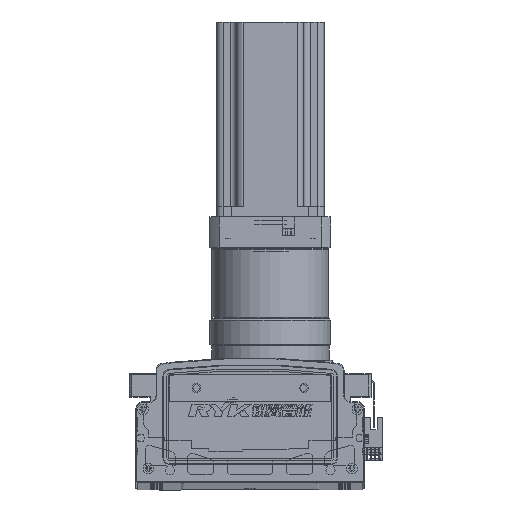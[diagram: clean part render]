
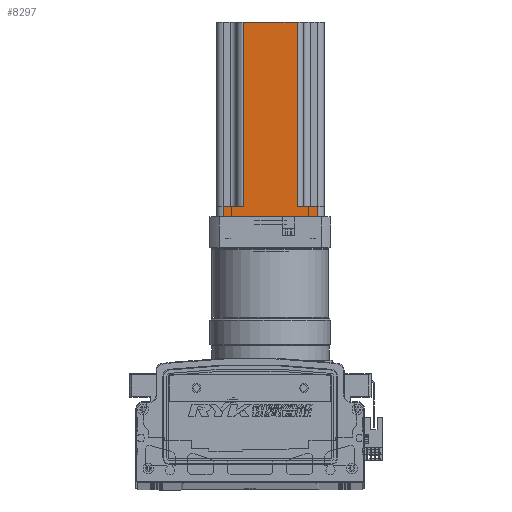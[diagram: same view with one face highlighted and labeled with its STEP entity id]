
A CAD part, top view. The second image highlights one B-rep face of the part: STEP entity #8297.
In plain terms, the highlighted planar face has unit normal (0, 0, 1) as drawn and (0, -1, 0) by its records, which use the part's own axes.
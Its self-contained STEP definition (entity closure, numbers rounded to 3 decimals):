
#8297 = ADVANCED_FACE ( 'NONE', ( #74158 ), #105929, .F. ) ;
#20008 = DIRECTION ( 'NONE',  ( 1., 0., 0. ) ) ;
#20040 = CARTESIAN_POINT ( 'NONE',  ( -87.587, -40.37, 145. ) ) ;
#20059 = CARTESIAN_POINT ( 'NONE',  ( -82.587, -40.37, 145. ) ) ;
#20079 = DIRECTION ( 'NONE',  ( 1., 0., 0. ) ) ;
#20089 = CARTESIAN_POINT ( 'NONE',  ( -87.587, -40.37, 0. ) ) ;
#20096 = CARTESIAN_POINT ( 'NONE',  ( -12.587, -40.37, 145. ) ) ;
#20097 = DIRECTION ( 'NONE',  ( 0., 0., 1. ) ) ;
#20120 = DIRECTION ( 'NONE',  ( 0., 0., -1. ) ) ;
#20157 = CARTESIAN_POINT ( 'NONE',  ( -67.587, -40.37, 145. ) ) ;
#20175 = DIRECTION ( 'NONE',  ( 0., 0., -1. ) ) ;
#20198 = CARTESIAN_POINT ( 'NONE',  ( -27.587, -40.37, 145. ) ) ;
#20212 = DIRECTION ( 'NONE',  ( 0., 0., 1. ) ) ;
#20222 = CARTESIAN_POINT ( 'NONE',  ( -7.587, -40.37, 8. ) ) ;
#20246 = DIRECTION ( 'NONE',  ( 1., 0., 0. ) ) ;
#20284 = CARTESIAN_POINT ( 'NONE',  ( -87.587, -40.37, 8. ) ) ;
#20297 = DIRECTION ( 'NONE',  ( 1., 0., 0. ) ) ;
#23976 = LINE ( 'NONE', #20059, #23980 ) ;
#23978 = VECTOR ( 'NONE', #20079, 1000. ) ;
#23980 = VECTOR ( 'NONE', #20120, 1000. ) ;
#23984 = VECTOR ( 'NONE', #20008, 1000. ) ;
#23991 = VECTOR ( 'NONE', #20097, 1000. ) ;
#24000 = LINE ( 'NONE', #20040, #23984 ) ;
#24007 = LINE ( 'NONE', #20089, #23978 ) ;
#24009 = LINE ( 'NONE', #20096, #23991 ) ;
#24037 = LINE ( 'NONE', #20284, #24111 ) ;
#24043 = VECTOR ( 'NONE', #20175, 1000. ) ;
#24065 = VECTOR ( 'NONE', #20212, 1000. ) ;
#24074 = LINE ( 'NONE', #20157, #24043 ) ;
#24091 = LINE ( 'NONE', #20198, #24065 ) ;
#24111 = VECTOR ( 'NONE', #20297, 1000. ) ;
#24112 = LINE ( 'NONE', #20222, #24132 ) ;
#24132 = VECTOR ( 'NONE', #20246, 1000. ) ;
#30398 = VERTEX_POINT ( 'NONE', #35288 ) ;
#30403 = VERTEX_POINT ( 'NONE', #35272 ) ;
#30422 = VERTEX_POINT ( 'NONE', #35310 ) ;
#30435 = VERTEX_POINT ( 'NONE', #35377 ) ;
#30436 = VERTEX_POINT ( 'NONE', #35385 ) ;
#30441 = VERTEX_POINT ( 'NONE', #35379 ) ;
#35272 = CARTESIAN_POINT ( 'NONE',  ( -67.587, -40.37, 8. ) ) ;
#35288 = CARTESIAN_POINT ( 'NONE',  ( -67.587, -40.37, 145. ) ) ;
#35310 = CARTESIAN_POINT ( 'NONE',  ( -12.587, -40.37, 8. ) ) ;
#35377 = CARTESIAN_POINT ( 'NONE',  ( -27.587, -40.37, 145. ) ) ;
#35379 = CARTESIAN_POINT ( 'NONE',  ( -12.587, -40.37, 0. ) ) ;
#35385 = CARTESIAN_POINT ( 'NONE',  ( -27.587, -40.37, 8. ) ) ;
#43062 = EDGE_CURVE ( 'NONE', #30398, #30435, #24000, .T. ) ;
#43072 = EDGE_CURVE ( 'NONE', #95370, #30441, #24007, .T. ) ;
#43079 = EDGE_CURVE ( 'NONE', #30441, #30422, #24009, .T. ) ;
#43083 = EDGE_CURVE ( 'NONE', #95371, #95370, #23976, .T. ) ;
#43147 = EDGE_CURVE ( 'NONE', #30398, #30403, #24074, .T. ) ;
#43184 = EDGE_CURVE ( 'NONE', #30436, #30435, #24091, .T. ) ;
#43229 = EDGE_CURVE ( 'NONE', #95371, #30403, #24037, .T. ) ;
#43233 = EDGE_CURVE ( 'NONE', #30436, #30422, #24112, .T. ) ;
#44642 = CARTESIAN_POINT ( 'NONE',  ( -82.587, -40.37, 8. ) ) ;
#44657 = CARTESIAN_POINT ( 'NONE',  ( -82.587, -40.37, 0. ) ) ;
#70274 = EDGE_LOOP ( 'NONE', ( #94616, #94634, #94611, #94617, #94624, #94784, #94769, #94781 ) ) ;
#74158 = FACE_OUTER_BOUND ( 'NONE', #70274, .T. ) ;
#76563 = AXIS2_PLACEMENT_3D ( 'NONE', #105948, #105932, #105934 ) ;
#94611 = ORIENTED_EDGE ( 'NONE', *, *, #43072, .T. ) ;
#94616 = ORIENTED_EDGE ( 'NONE', *, *, #43229, .F. ) ;
#94617 = ORIENTED_EDGE ( 'NONE', *, *, #43079, .T. ) ;
#94624 = ORIENTED_EDGE ( 'NONE', *, *, #43233, .F. ) ;
#94634 = ORIENTED_EDGE ( 'NONE', *, *, #43083, .T. ) ;
#94769 = ORIENTED_EDGE ( 'NONE', *, *, #43062, .F. ) ;
#94781 = ORIENTED_EDGE ( 'NONE', *, *, #43147, .T. ) ;
#94784 = ORIENTED_EDGE ( 'NONE', *, *, #43184, .T. ) ;
#95370 = VERTEX_POINT ( 'NONE', #44657 ) ;
#95371 = VERTEX_POINT ( 'NONE', #44642 ) ;
#105929 = PLANE ( 'NONE',  #76563 ) ;
#105932 = DIRECTION ( 'NONE',  ( 0., 1., 0. ) ) ;
#105934 = DIRECTION ( 'NONE',  ( -1., 0., 0. ) ) ;
#105948 = CARTESIAN_POINT ( 'NONE',  ( -87.587, -40.37, 145. ) ) ;
